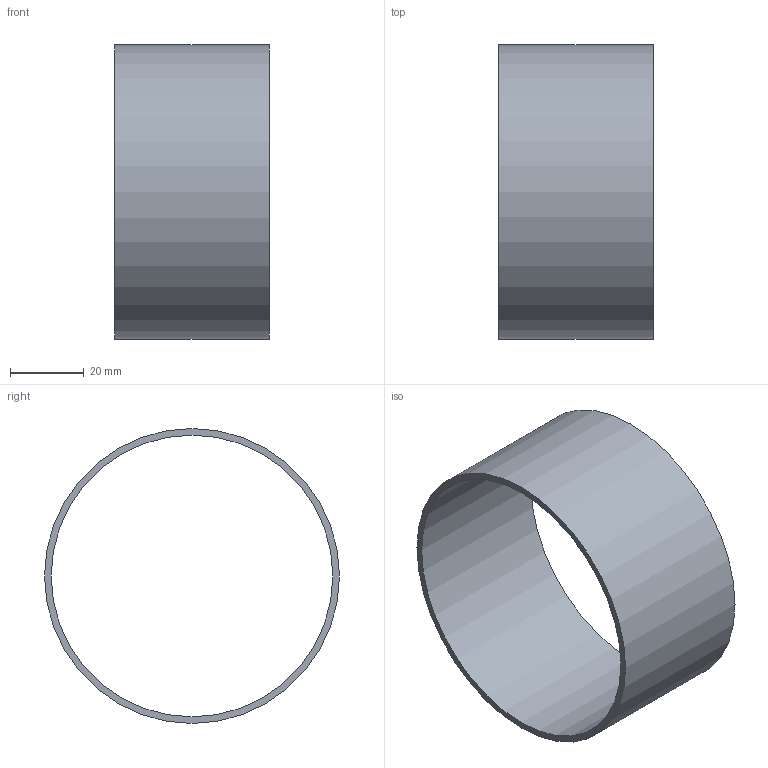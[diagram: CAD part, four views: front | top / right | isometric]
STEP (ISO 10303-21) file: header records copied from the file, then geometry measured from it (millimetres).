
FILE_DESCRIPTION(('Open CASCADE Model'),'2;1');
FILE_NAME('Open CASCADE Shape Model','2026-10-17T16:45:05',('Author'),( 'Open CASCADE'),'Open CASCADE STEP processor 8.0','build123d', 'Unknown');
FILE_SCHEMA(('AUTOMOTIVE_DESIGN { 1 0 10303 214 1 1 1 1 }'));
Length unit declared in the file: millimetre
Products named in the file (1): COMPOUND
Bounding box: 42 x 80 x 80 mm (x, y, z)
Volume: 18572.8 mm3; surface area: 21520.9 mm2
Topology: 1 solids, 1 shells, 4 faces, 6 edges, 4 vertices
Faces by surface type: cylinder 2, plane 2
Full cylindrical faces by diameter (mm): 76.4 x1, 80 x1
Entity records: 186 total; most frequent: DIRECTION 32, CARTESIAN_POINT 27, ORIENTED_EDGE 12, PCURVE 12, DEFINITIONAL_REPRESENTATION 12, LINE 10, VECTOR 10, AXIS2_PLACEMENT_3D 9
